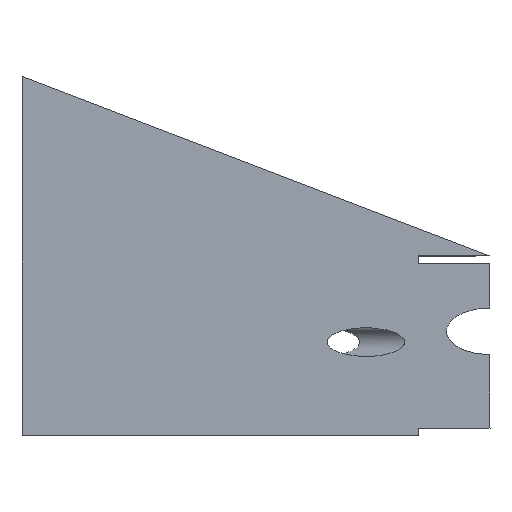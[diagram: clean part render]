
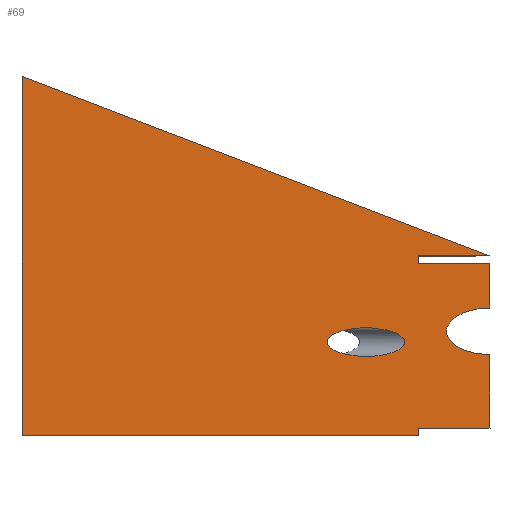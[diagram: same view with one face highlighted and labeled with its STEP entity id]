
A CAD part, top view. The second image highlights one B-rep face of the part: STEP entity #69.
In plain terms, the highlighted planar face has unit normal (0, 0, 1).
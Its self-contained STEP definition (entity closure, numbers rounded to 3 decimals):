
#69=ADVANCED_FACE('',(#112,#113),#114,.F.);
#112=FACE_OUTER_BOUND('',#159,.T.);
#113=FACE_BOUND('',#160,.T.);
#114=PLANE('',#161);
#159=EDGE_LOOP('',(#316,#317,#318,#319,#320,#321,#322,#323,#324,#325,#326));
#160=EDGE_LOOP('',(#327,#328));
#161=AXIS2_PLACEMENT_3D('',#329,#330,#331);
#316=ORIENTED_EDGE('',*,*,#360,.T.);
#317=ORIENTED_EDGE('',*,*,#408,.T.);
#318=ORIENTED_EDGE('',*,*,#409,.T.);
#319=ORIENTED_EDGE('',*,*,#410,.F.);
#320=ORIENTED_EDGE('',*,*,#401,.T.);
#321=ORIENTED_EDGE('',*,*,#398,.T.);
#322=ORIENTED_EDGE('',*,*,#404,.F.);
#323=ORIENTED_EDGE('',*,*,#407,.T.);
#324=ORIENTED_EDGE('',*,*,#383,.F.);
#325=ORIENTED_EDGE('',*,*,#363,.T.);
#326=ORIENTED_EDGE('',*,*,#366,.T.);
#327=ORIENTED_EDGE('',*,*,#355,.T.);
#328=ORIENTED_EDGE('',*,*,#359,.T.);
#329=CARTESIAN_POINT('',(133.539,-67.888,5.));
#330=DIRECTION('',(0.,0.,-1.0));
#331=DIRECTION('',(-1.0,0.0,0.));
#355=EDGE_CURVE('',#416,#413,#417,.T.);
#359=EDGE_CURVE('',#413,#416,#422,.T.);
#360=EDGE_CURVE('',#423,#424,#425,.T.);
#363=EDGE_CURVE('',#429,#430,#431,.T.);
#366=EDGE_CURVE('',#430,#423,#435,.T.);
#383=EDGE_CURVE('',#429,#464,#465,.T.);
#398=EDGE_CURVE('',#490,#491,#492,.T.);
#401=EDGE_CURVE('',#495,#490,#496,.T.);
#404=EDGE_CURVE('',#498,#491,#500,.T.);
#407=EDGE_CURVE('',#498,#464,#503,.T.);
#408=EDGE_CURVE('',#424,#504,#505,.T.);
#409=EDGE_CURVE('',#504,#506,#507,.T.);
#410=EDGE_CURVE('',#495,#506,#508,.T.);
#413=VERTEX_POINT('',#511);
#416=VERTEX_POINT('',#515);
#417=ELLIPSE('',#516,10.797,4.0);
#422=ELLIPSE('',#522,10.797,4.0);
#423=VERTEX_POINT('',#523);
#424=VERTEX_POINT('',#524);
#425=LINE('',#525,#526);
#429=VERTEX_POINT('',#532);
#430=VERTEX_POINT('',#533);
#431=LINE('',#534,#535);
#435=LINE('',#541,#542);
#464=VERTEX_POINT('',#587);
#465=LINE('',#588,#589);
#490=VERTEX_POINT('',#627);
#491=VERTEX_POINT('',#628);
#492=LINE('',#629,#630);
#495=VERTEX_POINT('',#635);
#496=LINE('',#636,#637);
#498=VERTEX_POINT('',#640);
#500=LINE('',#643,#644);
#503=ELLIPSE('',#649,12.098,6.5);
#504=VERTEX_POINT('',#650);
#505=LINE('',#651,#652);
#506=VERTEX_POINT('',#653);
#507=LINE('',#654,#655);
#508=LINE('',#656,#657);
#511=CARTESIAN_POINT('',(107.001,-70.022,5.));
#515=CARTESIAN_POINT('',(104.587,-77.972,5.));
#516=AXIS2_PLACEMENT_3D('',#663,#664,#665);
#522=AXIS2_PLACEMENT_3D('',#673,#674,#675);
#523=CARTESIAN_POINT('',(120.422,-50.,5.));
#524=CARTESIAN_POINT('',(140.38,-50.,5.));
#525=CARTESIAN_POINT('',(132.303,-50.,5.));
#526=VECTOR('',#676,1.0);
#532=CARTESIAN_POINT('',(140.38,-52.,5.));
#533=CARTESIAN_POINT('',(120.422,-52.,5.));
#534=CARTESIAN_POINT('',(132.303,-52.,5.));
#535=VECTOR('',#679,1.0);
#541=CARTESIAN_POINT('',(120.422,-58.944,5.));
#542=VECTOR('',#682,1.0);
#587=CARTESIAN_POINT('',(140.38,-64.5,5.));
#588=CARTESIAN_POINT('',(140.38,-100.,5.));
#589=VECTOR('',#699,1.0);
#627=CARTESIAN_POINT('',(120.422,-98.,5.));
#628=CARTESIAN_POINT('',(140.38,-98.,5.));
#629=CARTESIAN_POINT('',(132.303,-98.,5.));
#630=VECTOR('',#716,1.0);
#635=CARTESIAN_POINT('',(120.422,-100.,5.));
#636=CARTESIAN_POINT('',(120.422,-83.944,5.));
#637=VECTOR('',#719,1.0);
#640=CARTESIAN_POINT('',(140.38,-77.5,5.));
#643=CARTESIAN_POINT('',(140.38,-100.,5.));
#644=VECTOR('',#722,1.0);
#649=AXIS2_PLACEMENT_3D('',#725,#726,#727);
#650=CARTESIAN_POINT('',(10.,0.,5.));
#651=CARTESIAN_POINT('',(128.67,-45.509,5.));
#652=VECTOR('',#728,1.0);
#653=CARTESIAN_POINT('',(10.,-100.,5.));
#654=CARTESIAN_POINT('',(10.,-100.,5.));
#655=VECTOR('',#729,1.0);
#656=CARTESIAN_POINT('',(136.657,-100.,5.));
#657=VECTOR('',#730,1.0);
#663=CARTESIAN_POINT('',(105.794,-73.997,5.));
#664=DIRECTION('',(0.,0.,-1.0));
#665=DIRECTION('',(1.0,0.,0.));
#673=CARTESIAN_POINT('',(105.794,-73.997,5.));
#674=DIRECTION('',(0.,0.,-1.0));
#675=DIRECTION('',(1.0,0.,0.));
#676=DIRECTION('',(1.0,0.,0.));
#679=DIRECTION('',(-1.0,0.,0.));
#682=DIRECTION('',(0.,1.0,0.));
#699=DIRECTION('',(0.,-1.0,0.));
#716=DIRECTION('',(1.0,0.,0.));
#719=DIRECTION('',(0.,1.0,0.));
#722=DIRECTION('',(0.,-1.0,0.));
#725=CARTESIAN_POINT('',(140.38,-71.,5.));
#726=DIRECTION('',(0.,0.,-1.0));
#727=DIRECTION('',(-1.0,0.,0.));
#728=DIRECTION('',(-0.934,0.358,0.));
#729=DIRECTION('',(0.,-1.0,0.));
#730=DIRECTION('',(-1.0,0.,0.));
